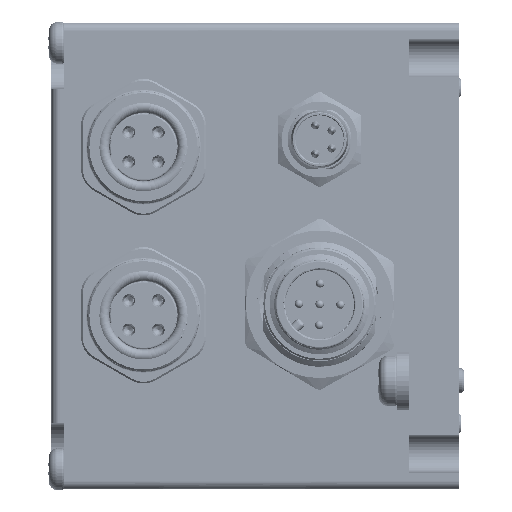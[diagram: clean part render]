
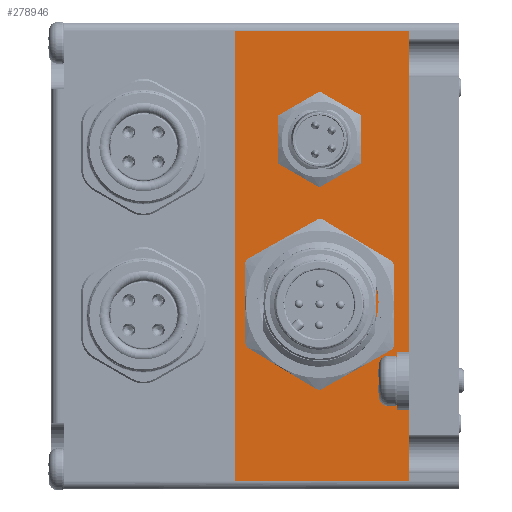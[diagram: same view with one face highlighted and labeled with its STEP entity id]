
A CAD part, left-side view. The second image highlights one B-rep face of the part: STEP entity #278946.
In plain terms, the highlighted planar face has unit normal (-1, 0, 0).
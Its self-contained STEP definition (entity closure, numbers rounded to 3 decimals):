
#276473=DIRECTION('',(0.,-1.,0.));
#276474=VECTOR('',#276473,54.);
#276475=CARTESIAN_POINT('',(-63.5,27.,21.));
#276476=LINE('',#276475,#276474);
#276480=DIRECTION('',(0.,0.,-1.));
#276481=VECTOR('',#276480,21.);
#276482=CARTESIAN_POINT('',(-63.5,-27.,21.));
#276483=LINE('',#276482,#276481);
#276487=DIRECTION('',(0.,0.,-1.));
#276488=VECTOR('',#276487,21.);
#276489=CARTESIAN_POINT('',(-63.5,27.,21.));
#276490=LINE('',#276489,#276488);
#276494=CARTESIAN_POINT('',(-63.5,5.8,10.8));
#276495=DIRECTION('',(-1.,0.,0.));
#276496=DIRECTION('',(0.,-0.447,-0.895));
#276497=AXIS2_PLACEMENT_3D('',#276494,#276495,#276496);
#276502=DIRECTION('',(0.,1.,0.));
#276503=VECTOR('',#276502,6.788);
#276504=CARTESIAN_POINT('',(-63.5,2.406,17.6));
#276505=LINE('',#276504,#276503);
#276509=CARTESIAN_POINT('',(-63.5,5.8,10.8));
#276510=DIRECTION('',(-1.,0.,0.));
#276511=DIRECTION('',(0.,0.447,0.895));
#276512=AXIS2_PLACEMENT_3D('',#276509,#276510,#276511);
#276517=DIRECTION('',(0.,-1.,0.));
#276518=VECTOR('',#276517,6.788);
#276519=CARTESIAN_POINT('',(-63.5,9.194,4.));
#276520=LINE('',#276519,#276518);
#276524=DIRECTION('',(0.,0.,-1.));
#276525=VECTOR('',#276524,3.487);
#276526=CARTESIAN_POINT('',(-63.5,-10.4,12.544));
#276527=LINE('',#276526,#276525);
#276531=CARTESIAN_POINT('',(-63.5,-14.,10.8));
#276532=DIRECTION('',(-1.,0.,0.));
#276533=DIRECTION('',(0.,0.9,-0.436));
#276534=AXIS2_PLACEMENT_3D('',#276531,#276532,#276533);
#276539=DIRECTION('',(0.,0.,1.));
#276540=VECTOR('',#276539,3.487);
#276541=CARTESIAN_POINT('',(-63.5,-17.6,9.056));
#276542=LINE('',#276541,#276540);
#276546=CARTESIAN_POINT('',(-63.5,-14.,10.8));
#276547=DIRECTION('',(-1.,0.,0.));
#276548=DIRECTION('',(0.,-0.9,0.436));
#276549=AXIS2_PLACEMENT_3D('',#276546,#276547,#276548);
#276641=DIRECTION('',(0.,-1.,0.));
#276642=VECTOR('',#276641,54.);
#276643=CARTESIAN_POINT('',(-63.5,27.,0.));
#276644=LINE('',#276643,#276642);
#278509=CARTESIAN_POINT('',(-63.5,27.,0.));
#278511=VERTEX_POINT('',#278509);
#278522=CARTESIAN_POINT('',(-63.5,-27.,0.));
#278524=VERTEX_POINT('',#278522);
#278605=CARTESIAN_POINT('',(-63.5,27.,21.));
#278606=CARTESIAN_POINT('',(-63.5,-27.,21.));
#278607=VERTEX_POINT('',#278605);
#278608=VERTEX_POINT('',#278606);
#278641=CARTESIAN_POINT('',(-63.5,2.406,4.));
#278642=CARTESIAN_POINT('',(-63.5,2.406,17.6));
#278643=VERTEX_POINT('',#278641);
#278644=VERTEX_POINT('',#278642);
#278645=CARTESIAN_POINT('',(-63.5,9.194,17.6));
#278646=VERTEX_POINT('',#278645);
#278647=CARTESIAN_POINT('',(-63.5,9.194,4.));
#278648=VERTEX_POINT('',#278647);
#278657=CARTESIAN_POINT('',(-63.5,-10.4,12.544));
#278658=CARTESIAN_POINT('',(-63.5,-10.4,9.056));
#278659=VERTEX_POINT('',#278657);
#278660=VERTEX_POINT('',#278658);
#278661=CARTESIAN_POINT('',(-63.5,-17.6,9.056));
#278662=VERTEX_POINT('',#278661);
#278663=CARTESIAN_POINT('',(-63.5,-17.6,12.544));
#278664=VERTEX_POINT('',#278663);
#278912=CARTESIAN_POINT('',(-63.5,28.,0.));
#278913=DIRECTION('',(-1.,0.,0.));
#278914=DIRECTION('',(0.,-1.,0.));
#278915=AXIS2_PLACEMENT_3D('',#278912,#278913,#278914);
#278916=PLANE('',#278915);
#278918=ORIENTED_EDGE('',*,*,#278917,.T.);
#278920=ORIENTED_EDGE('',*,*,#278919,.T.);
#278922=ORIENTED_EDGE('',*,*,#278921,.F.);
#278924=ORIENTED_EDGE('',*,*,#278923,.F.);
#278925=EDGE_LOOP('',(#278918,#278920,#278922,#278924));
#278926=FACE_OUTER_BOUND('',#278925,.F.);
#278927=ORIENTED_EDGE('',*,*,#278902,.T.);
#278929=ORIENTED_EDGE('',*,*,#278928,.T.);
#278931=ORIENTED_EDGE('',*,*,#278930,.T.);
#278933=ORIENTED_EDGE('',*,*,#278932,.T.);
#278934=EDGE_LOOP('',(#278927,#278929,#278931,#278933));
#278935=FACE_BOUND('',#278934,.F.);
#278937=ORIENTED_EDGE('',*,*,#278936,.T.);
#278939=ORIENTED_EDGE('',*,*,#278938,.T.);
#278941=ORIENTED_EDGE('',*,*,#278940,.T.);
#278943=ORIENTED_EDGE('',*,*,#278942,.T.);
#278944=EDGE_LOOP('',(#278937,#278939,#278941,#278943));
#278945=FACE_BOUND('',#278944,.F.);
#276498=CIRCLE('',#276497,7.6);
#276513=CIRCLE('',#276512,7.6);
#276535=CIRCLE('',#276534,4.);
#276550=CIRCLE('',#276549,4.);
#278902=EDGE_CURVE('',#278643,#278644,#276498,.T.);
#278917=EDGE_CURVE('',#278607,#278608,#276476,.T.);
#278919=EDGE_CURVE('',#278608,#278524,#276483,.T.);
#278921=EDGE_CURVE('',#278511,#278524,#276644,.T.);
#278923=EDGE_CURVE('',#278607,#278511,#276490,.T.);
#278928=EDGE_CURVE('',#278644,#278646,#276505,.T.);
#278930=EDGE_CURVE('',#278646,#278648,#276513,.T.);
#278932=EDGE_CURVE('',#278648,#278643,#276520,.T.);
#278936=EDGE_CURVE('',#278659,#278660,#276527,.T.);
#278938=EDGE_CURVE('',#278660,#278662,#276535,.T.);
#278940=EDGE_CURVE('',#278662,#278664,#276542,.T.);
#278942=EDGE_CURVE('',#278664,#278659,#276550,.T.);
#278946=ADVANCED_FACE('',(#278926,#278935,#278945),#278916,.T.);
